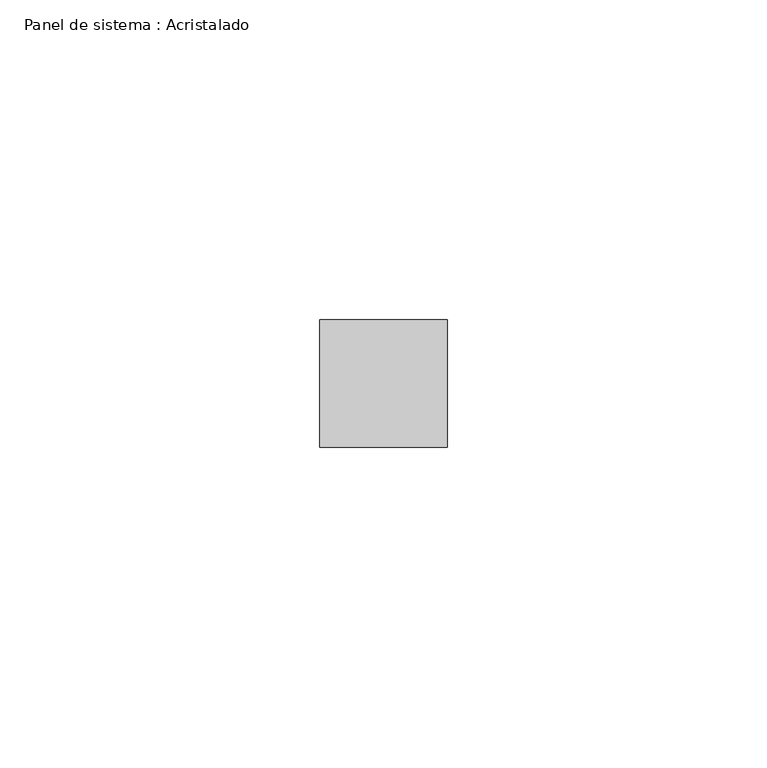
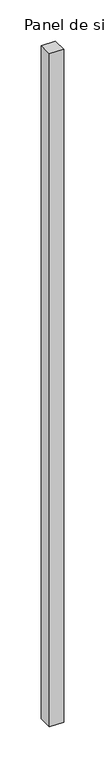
"""IFC4 building model written with IfcOpenShell, lengths in millimetres: plate geometry, Panel de sistema : Acristalado."""

from ifc_helpers import new_model, si_unit, origin, origin_with_axes, place, context, project, spatial, polyline, outline, extrude, source, transform, mapped, element, save


def panel_de_sistema_acristalado_8f27505a(model_context):
    return source(origin(), model_context, "Body", "SweptSolid", [
        extrude(outline(polyline([(10.0, -10.0), (-10.0, -10.0), (-10.0, 10.0), (10.0, 10.0), (10.0, -10.0)])), origin_with_axes(), (0.0, 0.0, 1.0), 1000.0),
    ])


if __name__ == "__main__":
    model = new_model("IFC4")
    model_context = context("Model", 3, world=origin())
    ifc_project = project(units=[si_unit("LENGTHUNIT", "METRE", prefix="MILLI")], contexts=[model_context])
    site = spatial("IfcSite", under=ifc_project)
    building = spatial("IfcBuilding", under=site)
    placement = place(None, origin())
    panel_de_sistema_acristalado_shape = panel_de_sistema_acristalado_8f27505a(model_context)
    element("IfcPlate", 1, ObjectType="Panel de sistema : Acristalado", at=placement, inside=building, context=model_context, shape_type="MappedRepresentation", body=[
        mapped(panel_de_sistema_acristalado_shape, transform((0.0, 0.0, 0.0), x_axis=(1.0, 0.0, 0.0), y_axis=(0.0, 1.0, 0.0), z_axis=(0.0, 0.0, 1.0))),
    ])
    save(model, "model.ifc")
